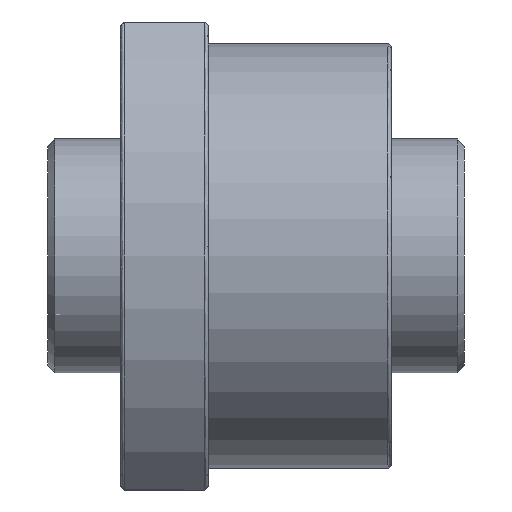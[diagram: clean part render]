
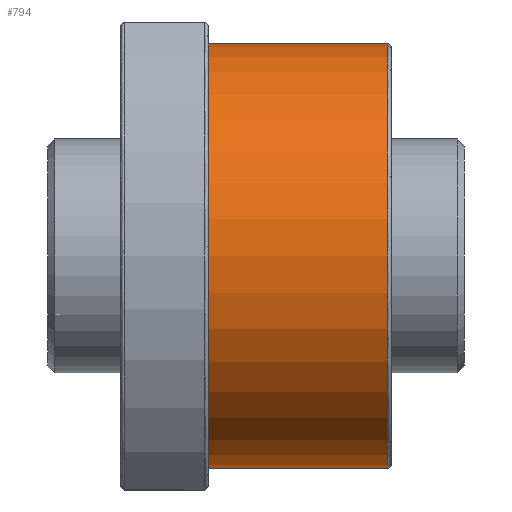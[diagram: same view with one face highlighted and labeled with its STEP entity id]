
A CAD part, front view. The second image highlights one B-rep face of the part: STEP entity #794.
In plain terms, the highlighted cylindrical face has radius 29 mm (diameter 58 mm), a partial arc.
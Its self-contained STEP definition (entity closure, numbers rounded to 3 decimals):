
#131 = CARTESIAN_POINT ( 'NONE',  ( 36.5, 0., -29. ) ) ;
#553 = DIRECTION ( 'NONE',  ( 0., 0., 1. ) ) ;
#610 = DIRECTION ( 'NONE',  ( 0., 0., 1. ) ) ;
#794 = ADVANCED_FACE ( 'NONE', ( #800 ), #9091, .T. ) ;
#799 = AXIS2_PLACEMENT_3D ( 'NONE', #6465, #5755, #6541 ) ;
#800 = FACE_OUTER_BOUND ( 'NONE', #9107, .T. ) ;
#920 = LINE ( 'NONE', #6957, #8848 ) ;
#1044 = ORIENTED_EDGE ( 'NONE', *, *, #2122, .F. ) ;
#1133 = VERTEX_POINT ( 'NONE', #8875 ) ;
#1277 = CIRCLE ( 'NONE', #4332, 29. ) ;
#1352 = DIRECTION ( 'NONE',  ( -1., 0., 0. ) ) ;
#1697 = LINE ( 'NONE', #9897, #2433 ) ;
#1806 = VERTEX_POINT ( 'NONE', #10308 ) ;
#1885 = ORIENTED_EDGE ( 'NONE', *, *, #7250, .T. ) ;
#2122 = EDGE_CURVE ( 'NONE', #7990, #3378, #1697, .T. ) ;
#2433 = VECTOR ( 'NONE', #8318, 1000. ) ;
#2599 = EDGE_CURVE ( 'NONE', #1806, #1133, #920, .T. ) ;
#2859 = CARTESIAN_POINT ( 'NONE',  ( 12., 0., -29. ) ) ;
#3328 = AXIS2_PLACEMENT_3D ( 'NONE', #7808, #1352, #553 ) ;
#3378 = VERTEX_POINT ( 'NONE', #2859 ) ;
#4112 = CIRCLE ( 'NONE', #799, 29. ) ;
#4332 = AXIS2_PLACEMENT_3D ( 'NONE', #6991, #6222, #610 ) ;
#4523 = ORIENTED_EDGE ( 'NONE', *, *, #9038, .F. ) ;
#5316 = DIRECTION ( 'NONE',  ( -1., 0., 0. ) ) ;
#5755 = DIRECTION ( 'NONE',  ( -1., 0., 0. ) ) ;
#6222 = DIRECTION ( 'NONE',  ( -1., 0., 0. ) ) ;
#6465 = CARTESIAN_POINT ( 'NONE',  ( 12., 0., 0. ) ) ;
#6541 = DIRECTION ( 'NONE',  ( 0., 0., 1. ) ) ;
#6957 = CARTESIAN_POINT ( 'NONE',  ( 37., 0., 29. ) ) ;
#6991 = CARTESIAN_POINT ( 'NONE',  ( 36.5, 0., 0. ) ) ;
#7250 = EDGE_CURVE ( 'NONE', #7990, #1806, #1277, .T. ) ;
#7808 = CARTESIAN_POINT ( 'NONE',  ( 37., 0., 0. ) ) ;
#7990 = VERTEX_POINT ( 'NONE', #131 ) ;
#8318 = DIRECTION ( 'NONE',  ( -1., 0., 0. ) ) ;
#8848 = VECTOR ( 'NONE', #5316, 1000. ) ;
#8875 = CARTESIAN_POINT ( 'NONE',  ( 12., 0., 29. ) ) ;
#9038 = EDGE_CURVE ( 'NONE', #3378, #1133, #4112, .T. ) ;
#9091 = CYLINDRICAL_SURFACE ( 'NONE', #3328, 29. ) ;
#9107 = EDGE_LOOP ( 'NONE', ( #1044, #1885, #9313, #4523 ) ) ;
#9313 = ORIENTED_EDGE ( 'NONE', *, *, #2599, .T. ) ;
#9897 = CARTESIAN_POINT ( 'NONE',  ( 37., 0., -29. ) ) ;
#10308 = CARTESIAN_POINT ( 'NONE',  ( 36.5, 0., 29. ) ) ;
